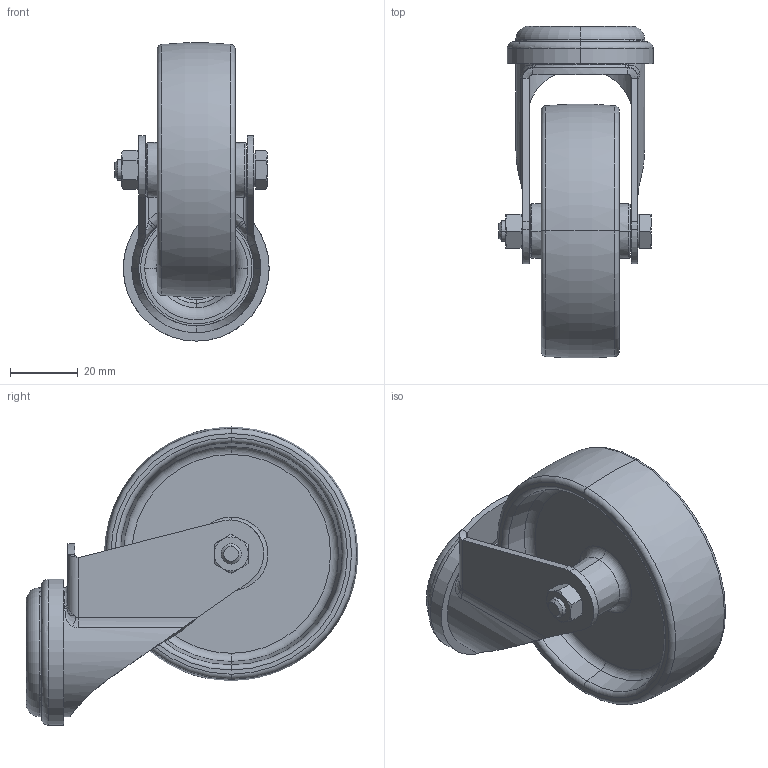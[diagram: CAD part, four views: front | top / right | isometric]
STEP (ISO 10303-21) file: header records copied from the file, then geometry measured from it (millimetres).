
FILE_DESCRIPTION (( 'STEP AP214' ), '1' );
FILE_NAME ('LRXA-PO_76G_754997-214.step', '2013-03-30T16:24:42', ( 'Matthias Senn' ), ( 'Blickle Räder+Rollen' ), 'SwSTEP 2.0', 'SolidWorks 2010', '' );
FILE_SCHEMA (( 'AUTOMOTIVE_DESIGN' ));
Length unit declared in the file: millimetre
Products named in the file (5): GH-LRXA_075_G15; AM_LPA_06x34_D8; PO_G15_PO_76_8G_299982; PO-G-R_G15_PO_76_8G_299982; LRXA-PO_76G_754997-214
Assembly tree (4 placements, depth 3):
  LRXA-PO_76G_754997-214
    AM_LPA_06x34_D8
    GH-LRXA_075_G15
    PO_G15_PO_76_8G_299982
      PO-G-R_G15_PO_76_8G_299982
Bounding box: 45.5 x 97.89 x 87.94 mm (x, y, z)
Volume: 68150 mm3; surface area: 32876 mm2
Topology: 3 solids, 3 shells, 701 faces, 1818 edges, 1183 vertices
Faces by surface type: plane 364, bspline 221, cone 43, torus 38, cylinder 35
Entity records: 45826 total; most frequent: CARTESIAN_POINT 22303, ORIENTED_EDGE 3636, DIRECTION 2487, EDGE_CURVE 1818, VERTEX_POINT 1183, VECTOR 1121, LINE 1121, EDGE_LOOP 765
